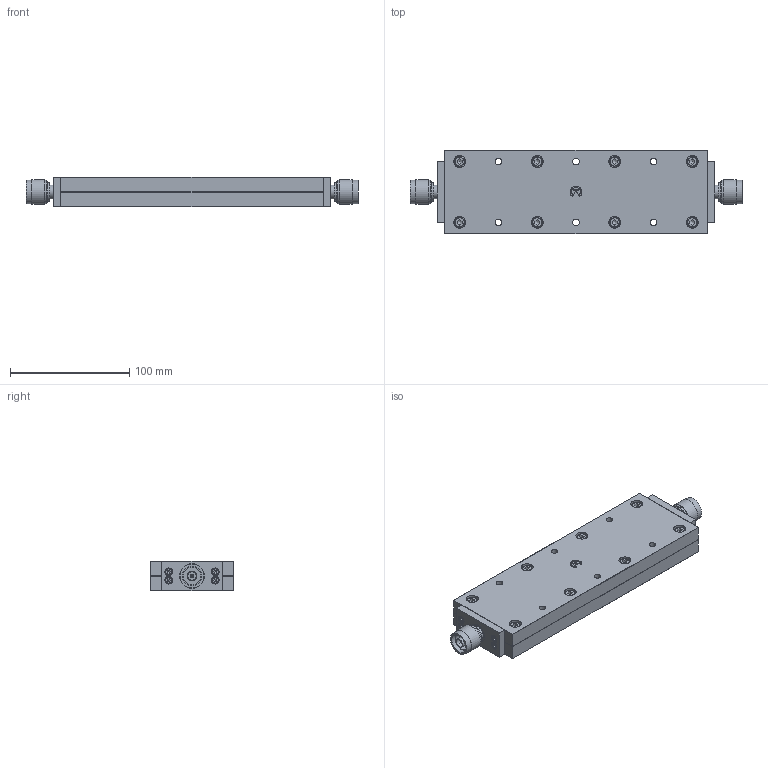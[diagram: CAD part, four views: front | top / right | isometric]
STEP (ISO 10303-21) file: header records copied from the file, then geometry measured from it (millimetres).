
FILE_DESCRIPTION(('STEP AP203'), '1');
FILE_NAME('ÏÐ1-25-500-3-IIIMM', '', ('UNSPECIFIED'), ('UNSPECIFIED'), 'C3D Converter', 'C3D Toolkit', '');
FILE_SCHEMA(('CONFIG_CONTROL_DESIGN'));
Length unit declared in the file: millimetre
Products named in the file (10): -01; #678
Assembly tree (22 placements, depth 2):
  (unnamed)
    (unnamed)
    (unnamed)
    (unnamed)
    (unnamed)  x4
    (unnamed)  x8
    -01
    #678  x4
    (unnamed)
    -01
Bounding box: 278.3 x 70 x 25 mm (x, y, z)
Volume: 403635.6 mm3; surface area: 103249.9 mm2
Topology: 22 solids, 22 shells, 470 faces, 1012 edges, 650 vertices
Faces by surface type: plane 262, cylinder 134, cone 42, torus 32
Full cylindrical faces by diameter (mm): 1.65 x2, 2.459 x4, 2.5 x4, 3 x16, 3.04 x2, 4.2 x8, 5 x8, 5.5 x28, 6.5 x8, 7 x2, 8.04 x2, 8.5 x8, 9 x2, 10 x8, 11.6 x2, 12.7 x2, 14.94 x2, 15.75 x2, 16 x4, 16.5 x2, 17.46 x2, 17.8 x2, 19.8 x4, 20.85 x2
Entity records: 8638 total; most frequent: CARTESIAN_POINT 1789, DIRECTION 1248, ORIENTED_EDGE 896, EDGE_LOOP 524, AXIS2_PLACEMENT_3D 523, EDGE_CURVE 448, VERTEX_POINT 364, FACE_BOUND 296
